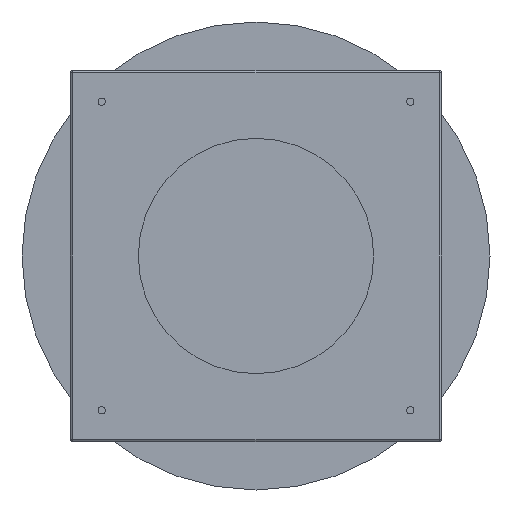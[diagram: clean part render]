
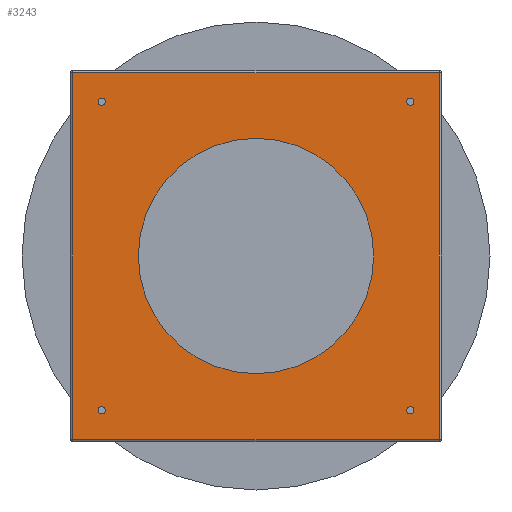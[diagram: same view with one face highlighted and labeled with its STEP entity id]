
A CAD part, front view. The second image highlights one B-rep face of the part: STEP entity #3243.
In plain terms, the highlighted planar face has unit normal (0, -1, 0).
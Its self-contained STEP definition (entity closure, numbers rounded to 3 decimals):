
#3243=ADVANCED_FACE('',(#6983,#6984,#6985,#6986,#6987,#6988),#6989,.F.);
#6983=FACE_BOUND('',#10732,.T.);
#6984=FACE_BOUND('',#10733,.T.);
#6985=FACE_BOUND('',#10734,.T.);
#6986=FACE_BOUND('',#10735,.T.);
#6987=FACE_BOUND('',#10736,.T.);
#6988=FACE_OUTER_BOUND('',#10737,.T.);
#6989=PLANE('',#10738);
#10732=EDGE_LOOP('',(#21490,#21491));
#10733=EDGE_LOOP('',(#21492,#21493));
#10734=EDGE_LOOP('',(#21494,#21495));
#10735=EDGE_LOOP('',(#21496,#21497));
#10736=EDGE_LOOP('',(#21498,#21499));
#10737=EDGE_LOOP('',(#21500,#21501,#21502,#21503));
#10738=AXIS2_PLACEMENT_3D('',#21504,#21505,#21506);
#21490=ORIENTED_EDGE('',*,*,#22724,.T.);
#21491=ORIENTED_EDGE('',*,*,#22691,.T.);
#21492=ORIENTED_EDGE('',*,*,#25822,.T.);
#21493=ORIENTED_EDGE('',*,*,#21605,.T.);
#21494=ORIENTED_EDGE('',*,*,#25825,.T.);
#21495=ORIENTED_EDGE('',*,*,#21600,.T.);
#21496=ORIENTED_EDGE('',*,*,#25828,.T.);
#21497=ORIENTED_EDGE('',*,*,#21595,.T.);
#21498=ORIENTED_EDGE('',*,*,#25831,.T.);
#21499=ORIENTED_EDGE('',*,*,#21590,.T.);
#21500=ORIENTED_EDGE('',*,*,#25839,.F.);
#21501=ORIENTED_EDGE('',*,*,#25845,.T.);
#21502=ORIENTED_EDGE('',*,*,#25851,.T.);
#21503=ORIENTED_EDGE('',*,*,#25879,.F.);
#21504=CARTESIAN_POINT('',(0.0,-205.0,0.0));
#21505=DIRECTION('',(0.0,1.0,0.0));
#21506=DIRECTION('',(0.0,0.0,1.0));
#21590=EDGE_CURVE('',#25919,#25923,#25925,.T.);
#21595=EDGE_CURVE('',#25928,#25932,#25934,.T.);
#21600=EDGE_CURVE('',#25937,#25941,#25943,.T.);
#21605=EDGE_CURVE('',#25946,#25950,#25952,.T.);
#22691=EDGE_CURVE('',#28112,#28116,#28118,.T.);
#22724=EDGE_CURVE('',#28116,#28112,#28164,.T.);
#25822=EDGE_CURVE('',#25950,#25946,#32283,.T.);
#25825=EDGE_CURVE('',#25941,#25937,#32286,.T.);
#25828=EDGE_CURVE('',#25932,#25928,#32289,.T.);
#25831=EDGE_CURVE('',#25923,#25919,#32292,.T.);
#25839=EDGE_CURVE('',#32297,#32303,#32304,.T.);
#25845=EDGE_CURVE('',#32297,#32311,#32313,.T.);
#25851=EDGE_CURVE('',#32311,#32315,#32322,.T.);
#25879=EDGE_CURVE('',#32303,#32315,#32363,.T.);
#25919=VERTEX_POINT('',#32406);
#25923=VERTEX_POINT('',#32411);
#25925=CIRCLE('',#32414,7.0);
#25928=VERTEX_POINT('',#32417);
#25932=VERTEX_POINT('',#32422);
#25934=CIRCLE('',#32425,7.0);
#25937=VERTEX_POINT('',#32428);
#25941=VERTEX_POINT('',#32433);
#25943=CIRCLE('',#32436,7.0);
#25946=VERTEX_POINT('',#32439);
#25950=VERTEX_POINT('',#32444);
#25952=CIRCLE('',#32447,7.0);
#28112=VERTEX_POINT('',#34633);
#28116=VERTEX_POINT('',#34638);
#28118=CIRCLE('',#34641,225.0);
#28164=CIRCLE('',#34691,225.0);
#32283=CIRCLE('',#39830,7.0);
#32286=CIRCLE('',#39833,7.0);
#32289=CIRCLE('',#39836,7.0);
#32292=CIRCLE('',#39839,7.0);
#32297=VERTEX_POINT('',#39844);
#32303=VERTEX_POINT('',#39850);
#32304=LINE('',#39851,#39852);
#32311=VERTEX_POINT('',#39861);
#32313=LINE('',#39863,#39864);
#32315=VERTEX_POINT('',#39866);
#32322=LINE('',#39873,#39874);
#32363=LINE('',#39923,#39924);
#32406=CARTESIAN_POINT('',(-288.0,-205.0,-295.0));
#32411=CARTESIAN_POINT('',(-302.0,-205.0,-295.0));
#32414=AXIS2_PLACEMENT_3D('',#39977,#39978,#39979);
#32417=CARTESIAN_POINT('',(302.0,-205.0,-295.0));
#32422=CARTESIAN_POINT('',(288.0,-205.0,-295.0));
#32425=AXIS2_PLACEMENT_3D('',#39985,#39986,#39987);
#32428=CARTESIAN_POINT('',(302.0,-205.0,295.0));
#32433=CARTESIAN_POINT('',(288.0,-205.0,295.0));
#32436=AXIS2_PLACEMENT_3D('',#39993,#39994,#39995);
#32439=CARTESIAN_POINT('',(-288.0,-205.0,295.0));
#32444=CARTESIAN_POINT('',(-302.0,-205.0,295.0));
#32447=AXIS2_PLACEMENT_3D('',#40001,#40002,#40003);
#34633=CARTESIAN_POINT('',(225.0,-205.0,0.));
#34638=CARTESIAN_POINT('',(-225.0,-205.0,0.));
#34641=AXIS2_PLACEMENT_3D('',#43188,#43189,#43190);
#34691=AXIS2_PLACEMENT_3D('',#43246,#43247,#43248);
#39830=AXIS2_PLACEMENT_3D('',#47416,#47417,#47418);
#39833=AXIS2_PLACEMENT_3D('',#47422,#47423,#47424);
#39836=AXIS2_PLACEMENT_3D('',#47428,#47429,#47430);
#39839=AXIS2_PLACEMENT_3D('',#47434,#47435,#47436);
#39844=CARTESIAN_POINT('',(350.0,-205.0,350.0));
#39850=CARTESIAN_POINT('',(350.0,-205.0,-350.0));
#39851=CARTESIAN_POINT('',(350.0,-205.0,0.0));
#39852=VECTOR('',#47449,1.0);
#39861=CARTESIAN_POINT('',(-350.0,-205.0,350.0));
#39863=CARTESIAN_POINT('',(0.0,-205.0,350.0));
#39864=VECTOR('',#47458,1.0);
#39866=CARTESIAN_POINT('',(-350.0,-205.0,-350.0));
#39873=CARTESIAN_POINT('',(-350.0,-205.0,0.0));
#39874=VECTOR('',#47468,1.0);
#39923=CARTESIAN_POINT('',(0.,-205.0,-350.0));
#39924=VECTOR('',#47513,1.0);
#39977=CARTESIAN_POINT('',(-295.0,-205.0,-295.0));
#39978=DIRECTION('',(-0.0,1.0,0.0));
#39979=DIRECTION('',(1.0,0.0,0.0));
#39985=CARTESIAN_POINT('',(295.0,-205.0,-295.0));
#39986=DIRECTION('',(-0.0,1.0,0.0));
#39987=DIRECTION('',(1.0,0.0,0.0));
#39993=CARTESIAN_POINT('',(295.0,-205.0,295.0));
#39994=DIRECTION('',(-0.0,1.0,0.0));
#39995=DIRECTION('',(1.0,0.0,0.0));
#40001=CARTESIAN_POINT('',(-295.0,-205.0,295.0));
#40002=DIRECTION('',(-0.0,1.0,0.0));
#40003=DIRECTION('',(1.0,0.0,0.0));
#43188=CARTESIAN_POINT('',(0.0,-205.0,0.0));
#43189=DIRECTION('',(-0.0,1.0,0.0));
#43190=DIRECTION('',(1.0,0.0,0.0));
#43246=CARTESIAN_POINT('',(0.0,-205.0,0.0));
#43247=DIRECTION('',(-0.0,1.0,0.0));
#43248=DIRECTION('',(1.0,0.0,0.0));
#47416=CARTESIAN_POINT('',(-295.0,-205.0,295.0));
#47417=DIRECTION('',(-0.0,1.0,0.0));
#47418=DIRECTION('',(1.0,0.0,0.0));
#47422=CARTESIAN_POINT('',(295.0,-205.0,295.0));
#47423=DIRECTION('',(-0.0,1.0,0.0));
#47424=DIRECTION('',(1.0,0.0,0.0));
#47428=CARTESIAN_POINT('',(295.0,-205.0,-295.0));
#47429=DIRECTION('',(-0.0,1.0,0.0));
#47430=DIRECTION('',(1.0,0.0,0.0));
#47434=CARTESIAN_POINT('',(-295.0,-205.0,-295.0));
#47435=DIRECTION('',(-0.0,1.0,0.0));
#47436=DIRECTION('',(1.0,0.0,0.0));
#47449=DIRECTION('',(0.0,0.0,-1.0));
#47458=DIRECTION('',(-1.0,0.,0.));
#47468=DIRECTION('',(0.0,0.0,-1.0));
#47513=DIRECTION('',(-1.0,0.,0.));
